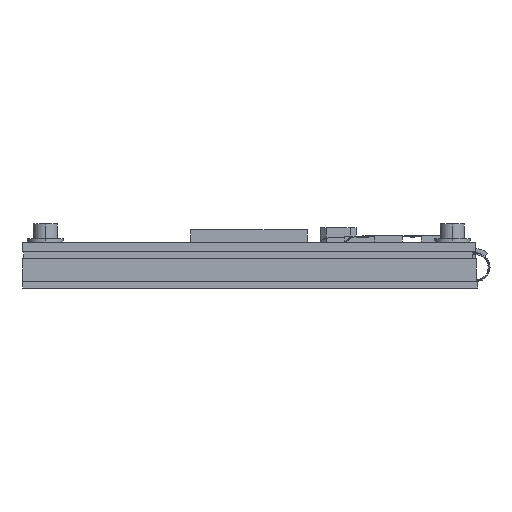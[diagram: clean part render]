
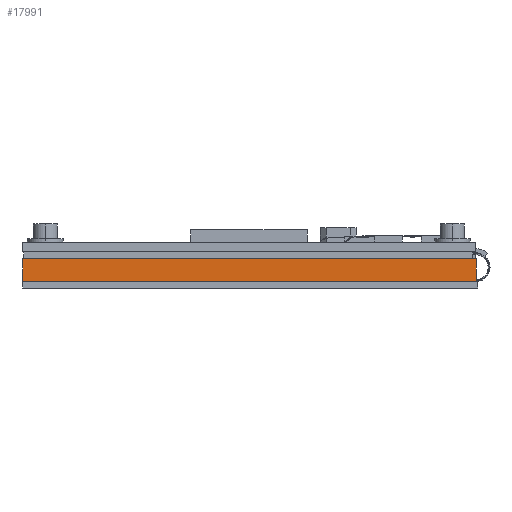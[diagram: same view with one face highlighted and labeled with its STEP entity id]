
A CAD part, left-side view. The second image highlights one B-rep face of the part: STEP entity #17991.
In plain terms, the highlighted planar face has unit normal (-1, 0, 0) as drawn and (1, 0, 0) by its records, which use the part's own axes.
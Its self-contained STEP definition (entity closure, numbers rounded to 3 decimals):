
#1605 = VECTOR ( 'NONE', #14526, 1000. ) ;
#2145 = EDGE_CURVE ( 'NONE', #17622, #5232, #14037, .T. ) ;
#2455 = VECTOR ( 'NONE', #6994, 1000. ) ;
#3608 = LINE ( 'NONE', #14941, #15641 ) ;
#4502 = CARTESIAN_POINT ( 'NONE',  ( 60.33, -40.14, -3.82 ) ) ;
#5232 = VERTEX_POINT ( 'NONE', #16927 ) ;
#5577 = EDGE_CURVE ( 'NONE', #13513, #17622, #11701, .T. ) ;
#6006 = AXIS2_PLACEMENT_3D ( 'NONE', #8624, #14768, #11768 ) ;
#6379 = CARTESIAN_POINT ( 'NONE',  ( 60.33, 35.66, 0. ) ) ;
#6734 = VERTEX_POINT ( 'NONE', #6379 ) ;
#6994 = DIRECTION ( 'NONE',  ( 0., 0., 1. ) ) ;
#7136 = PLANE ( 'NONE',  #6006 ) ;
#7312 = DIRECTION ( 'NONE',  ( 0., 0., 1. ) ) ;
#7591 = CARTESIAN_POINT ( 'NONE',  ( 60.33, 35.66, -3.82 ) ) ;
#7859 = ORIENTED_EDGE ( 'NONE', *, *, #5577, .F. ) ;
#8624 = CARTESIAN_POINT ( 'NONE',  ( 60.33, 0., -3.82 ) ) ;
#8816 = ORIENTED_EDGE ( 'NONE', *, *, #13339, .T. ) ;
#9076 = VECTOR ( 'NONE', #14903, 1000. ) ;
#11701 = LINE ( 'NONE', #14658, #1605 ) ;
#11768 = DIRECTION ( 'NONE',  ( 0., -1., 0. ) ) ;
#13095 = CARTESIAN_POINT ( 'NONE',  ( 60.33, 0., 0. ) ) ;
#13339 = EDGE_CURVE ( 'NONE', #13513, #6734, #3608, .T. ) ;
#13513 = VERTEX_POINT ( 'NONE', #7591 ) ;
#14037 = LINE ( 'NONE', #14639, #2455 ) ;
#14526 = DIRECTION ( 'NONE',  ( 0., -1., 0. ) ) ;
#14639 = CARTESIAN_POINT ( 'NONE',  ( 60.33, -40.14, -3.82 ) ) ;
#14658 = CARTESIAN_POINT ( 'NONE',  ( 60.33, 0., -3.82 ) ) ;
#14768 = DIRECTION ( 'NONE',  ( -1., 0., 0. ) ) ;
#14903 = DIRECTION ( 'NONE',  ( 0., -1., 0. ) ) ;
#14941 = CARTESIAN_POINT ( 'NONE',  ( 60.33, 35.66, -3.82 ) ) ;
#15259 = EDGE_LOOP ( 'NONE', ( #17918, #18139, #7859, #8816 ) ) ;
#15641 = VECTOR ( 'NONE', #7312, 1000. ) ;
#16927 = CARTESIAN_POINT ( 'NONE',  ( 60.33, -40.14, 0. ) ) ;
#17135 = EDGE_CURVE ( 'NONE', #6734, #5232, #17223, .T. ) ;
#17223 = LINE ( 'NONE', #13095, #9076 ) ;
#17622 = VERTEX_POINT ( 'NONE', #4502 ) ;
#17918 = ORIENTED_EDGE ( 'NONE', *, *, #17135, .T. ) ;
#17991 = ADVANCED_FACE ( 'NONE', ( #19042 ), #7136, .F. ) ;
#18139 = ORIENTED_EDGE ( 'NONE', *, *, #2145, .F. ) ;
#19042 = FACE_OUTER_BOUND ( 'NONE', #15259, .T. ) ;
